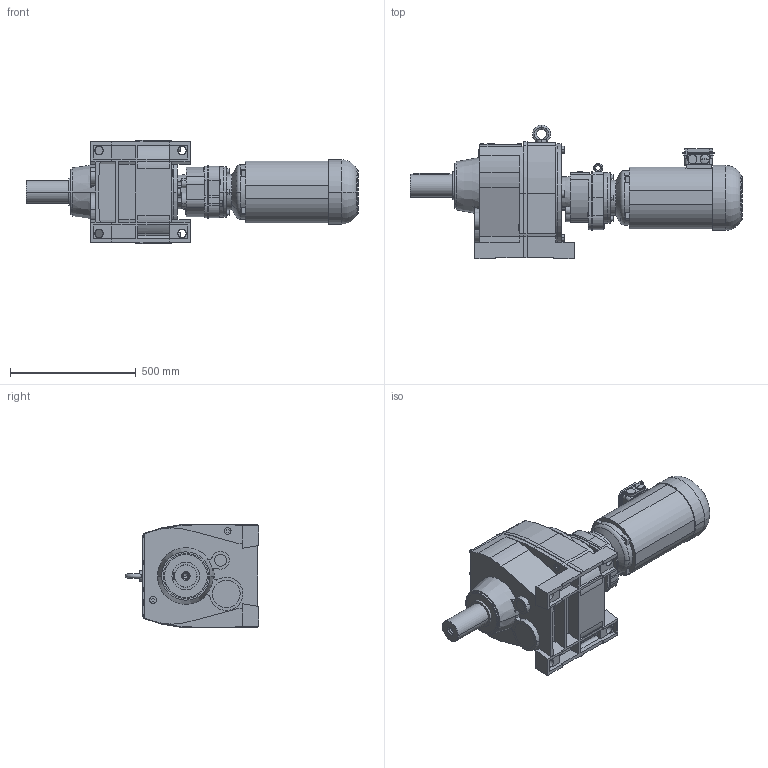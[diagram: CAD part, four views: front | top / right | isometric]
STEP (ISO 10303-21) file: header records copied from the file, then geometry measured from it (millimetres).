
FILE_DESCRIPTION(('STEP AP214'),'1');
FILE_NAME('STEP-File.stp','2018-01-01T00:00:00',(' '),('KEB'),' ','KEB-DRIVE',' ');
FILE_SCHEMA(('AUTOMOTIVE_DESIGN { 1 0 10303 214 1 1 1 1 }'));
Length unit declared in the file: millimetre
Products named in the file (11): g8a; w8_we_90x170; fp4-c8; g4b; ca4; dm132_kkn; kk10; PLUG_M32; SCREW-PLUG_M32; ndm132; G83G42A DM132MB4§CAD13
Assembly tree (10 placements, depth 2):
  G83G42A DM132MB4§CAD13
    g8a
    w8_we_90x170
    fp4-c8
    g4b
    ca4
    dm132_kkn
    kk10
    PLUG_M32
    SCREW-PLUG_M32
    ndm132
Bounding box: 1319 x 531 x 412 mm (x, y, z)
Volume: 87532901.4 mm3; surface area: 2502413.9 mm2
Topology: 10 solids, 10 shells, 570 faces, 1473 edges, 977 vertices
Faces by surface type: plane 350, cylinder 171, torus 25, cone 20, bspline 4
Entity records: 22850 total; most frequent: CARTESIAN_POINT 9086, ORIENTED_EDGE 2942, DIRECTION 2558, EDGE_CURVE 1471, VERTEX_POINT 977, VECTOR 918, LINE 918, AXIS2_PLACEMENT_3D 820
